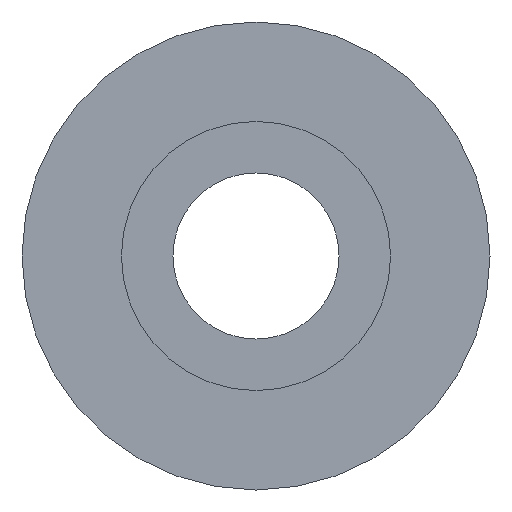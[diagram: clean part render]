
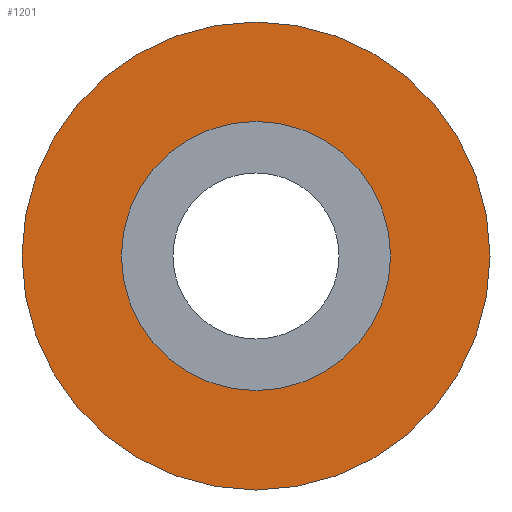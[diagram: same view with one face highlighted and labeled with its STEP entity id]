
A CAD part, left-side view. The second image highlights one B-rep face of the part: STEP entity #1201.
In plain terms, the highlighted planar face has unit normal (-1, 0, 0).
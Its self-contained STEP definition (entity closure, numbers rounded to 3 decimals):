
#89=CARTESIAN_POINT('',(457.6,-278.202,1717.8));
#90=DIRECTION('',(1.,0.,0.));
#91=DIRECTION('',(0.,0.,-1.));
#92=AXIS2_PLACEMENT_3D('',#89,#90,#91);
#102=CARTESIAN_POINT('',(457.6,-278.202,1717.8));
#103=DIRECTION('',(-1.,0.,0.));
#104=DIRECTION('',(0.,-1.,0.));
#105=AXIS2_PLACEMENT_3D('',#102,#103,#104);
#107=CARTESIAN_POINT('',(457.6,-278.202,1717.8));
#108=DIRECTION('',(-1.,0.,0.));
#109=DIRECTION('',(0.,1.,0.));
#110=AXIS2_PLACEMENT_3D('',#107,#108,#109);
#845=CARTESIAN_POINT('',(457.6,-278.202,1717.8));
#846=DIRECTION('',(1.,0.,0.));
#847=DIRECTION('',(0.,0.,1.));
#848=AXIS2_PLACEMENT_3D('',#845,#846,#847);
#1040=CARTESIAN_POINT('',(457.6,-288.202,1717.8));
#1041=CARTESIAN_POINT('',(457.6,-268.202,1717.8));
#1042=VERTEX_POINT('',#1040);
#1043=VERTEX_POINT('',#1041);
#1044=CARTESIAN_POINT('',(457.6,-278.202,1723.55));
#1045=CARTESIAN_POINT('',(457.6,-278.202,1712.05));
#1046=VERTEX_POINT('',#1044);
#1047=VERTEX_POINT('',#1045);
#1185=CARTESIAN_POINT('',(457.6,0.,0.));
#1186=DIRECTION('',(-1.,0.,0.));
#1187=DIRECTION('',(0.,-1.,0.));
#1188=AXIS2_PLACEMENT_3D('',#1185,#1186,#1187);
#1189=PLANE('',#1188);
#1191=ORIENTED_EDGE('',*,*,#1190,.F.);
#1193=ORIENTED_EDGE('',*,*,#1192,.F.);
#1194=EDGE_LOOP('',(#1191,#1193));
#1195=FACE_OUTER_BOUND('',#1194,.F.);
#1197=ORIENTED_EDGE('',*,*,#1196,.F.);
#1198=ORIENTED_EDGE('',*,*,#1175,.F.);
#1199=EDGE_LOOP('',(#1197,#1198));
#1200=FACE_BOUND('',#1199,.F.);
#1201=ADVANCED_FACE('',(#1195,#1200),#1189,.T.);
#93=CIRCLE('',#92,5.75);
#106=CIRCLE('',#105,10.);
#111=CIRCLE('',#110,10.);
#849=CIRCLE('',#848,5.75);
#1175=EDGE_CURVE('',#1047,#1046,#93,.T.);
#1190=EDGE_CURVE('',#1042,#1043,#106,.T.);
#1192=EDGE_CURVE('',#1043,#1042,#111,.T.);
#1196=EDGE_CURVE('',#1046,#1047,#849,.T.);
